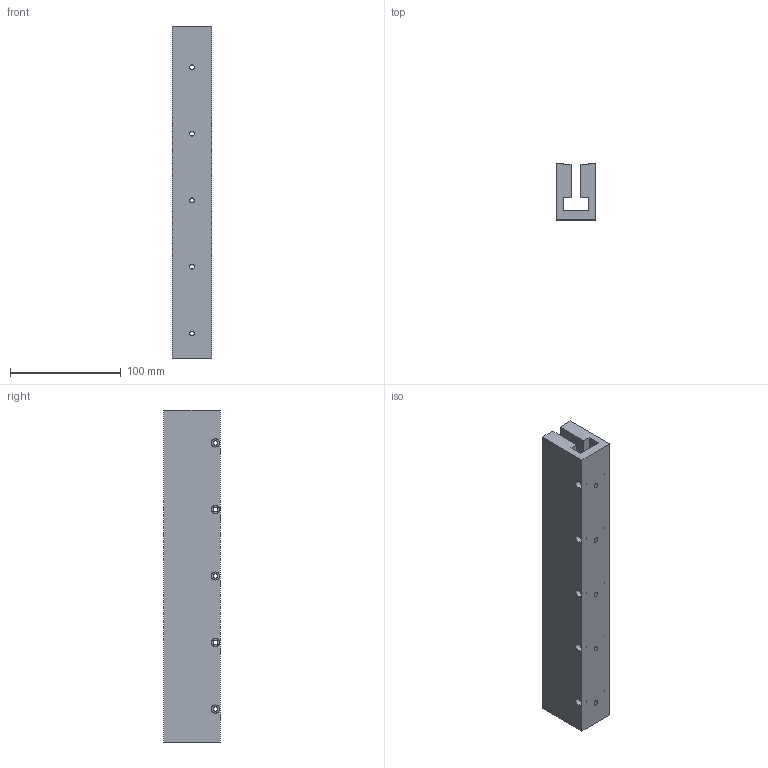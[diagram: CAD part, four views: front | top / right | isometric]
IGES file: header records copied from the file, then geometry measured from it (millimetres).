
Start section: SolidWorks IGES file using analytic representation for surfaces
Bounding box: 35.7 x 50.8 x 299.5 mm (x, y, z)
Surface area: 91315.9 mm2 (no closed solid volume)
Topology: 0 solids, 0 shells, 68 faces, 1536 edges, 1536 vertices
Faces by surface type: revolution 40, bspline 28
